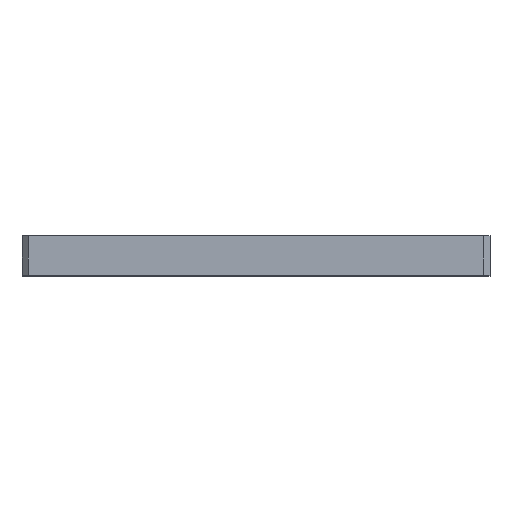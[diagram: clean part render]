
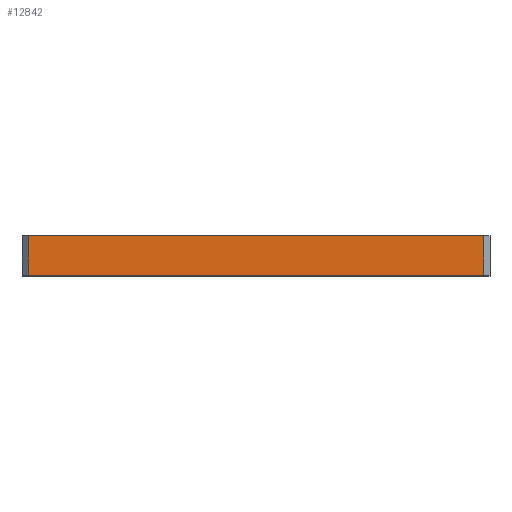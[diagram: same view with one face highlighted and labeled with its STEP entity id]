
A CAD part, top view. The second image highlights one B-rep face of the part: STEP entity #12842.
In plain terms, the highlighted planar face has unit normal (0, 0, 1).
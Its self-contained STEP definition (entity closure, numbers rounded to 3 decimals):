
#1127=PLANE('',#14531);
#1695=FACE_OUTER_BOUND('',#2812,.T.);
#2812=EDGE_LOOP('',(#11172,#11173,#11174,#11175));
#3915=LINE('',#21776,#4488);
#3923=LINE('',#21791,#4496);
#3925=LINE('',#21795,#4498);
#3926=LINE('',#21797,#4499);
#4488=VECTOR('',#18416,10.);
#4496=VECTOR('',#18430,10.);
#4498=VECTOR('',#18434,10.);
#4499=VECTOR('',#18437,10.);
#6708=VERTEX_POINT('',#21773);
#6709=VERTEX_POINT('',#21775);
#6713=VERTEX_POINT('',#21789);
#6714=VERTEX_POINT('',#21793);
#8373=EDGE_CURVE('',#6709,#6708,#3915,.T.);
#8381=EDGE_CURVE('',#6713,#6708,#3923,.T.);
#8383=EDGE_CURVE('',#6709,#6714,#3925,.T.);
#8384=EDGE_CURVE('',#6714,#6713,#3926,.T.);
#11172=ORIENTED_EDGE('',*,*,#8381,.F.);
#11173=ORIENTED_EDGE('',*,*,#8384,.F.);
#11174=ORIENTED_EDGE('',*,*,#8383,.F.);
#11175=ORIENTED_EDGE('',*,*,#8373,.T.);
#12842=ADVANCED_FACE('',(#1695),#1127,.T.);
#14531=AXIS2_PLACEMENT_3D('',#21796,#18435,#18436);
#18416=DIRECTION('',(1.,0.,0.));
#18430=DIRECTION('',(0.,-1.,0.));
#18434=DIRECTION('',(0.,1.,0.));
#18435=DIRECTION('center_axis',(0.,0.,1.));
#18436=DIRECTION('ref_axis',(1.,0.,0.));
#18437=DIRECTION('',(1.,0.,0.));
#21773=CARTESIAN_POINT('',(203.032,0.,201.658));
#21775=CARTESIAN_POINT('',(-86.468,0.,201.658));
#21776=CARTESIAN_POINT('',(-90.468,0.,201.658));
#21789=CARTESIAN_POINT('',(203.032,25.,201.658));
#21791=CARTESIAN_POINT('',(203.032,0.,201.658));
#21793=CARTESIAN_POINT('',(-86.468,25.,201.658));
#21795=CARTESIAN_POINT('',(-86.468,0.,201.658));
#21796=CARTESIAN_POINT('Origin',(-90.468,0.,201.658));
#21797=CARTESIAN_POINT('',(-90.468,25.,201.658));
